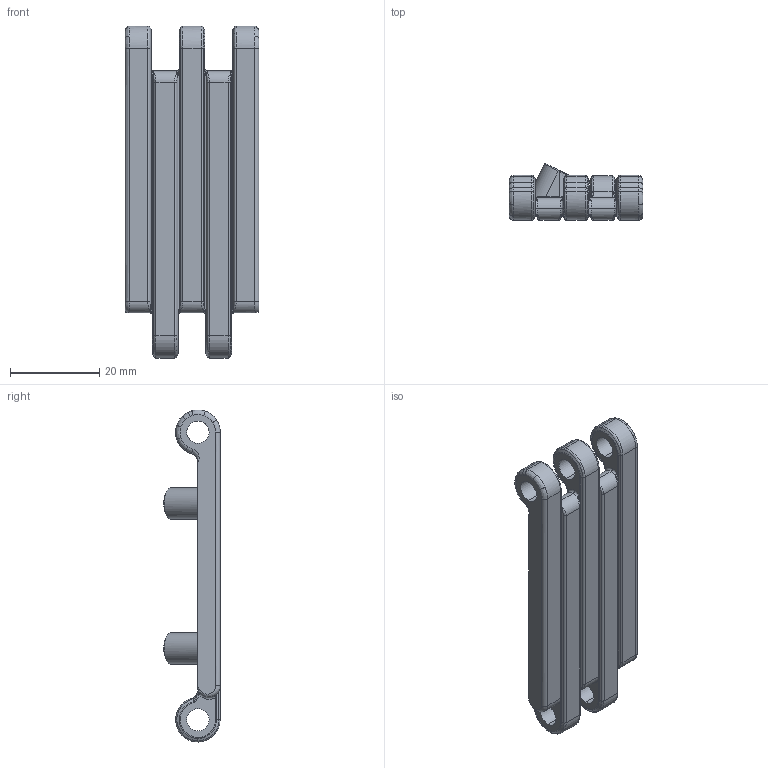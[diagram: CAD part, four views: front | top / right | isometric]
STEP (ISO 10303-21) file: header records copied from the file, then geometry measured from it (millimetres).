
FILE_DESCRIPTION (( 'STEP AP214' ), '1' );
FILE_NAME ('IDD-008-1.1.0-001_Kettenglied.STEP', '2021-08-18T14:46:08', ( '' ), ( '' ), 'SwSTEP 2.0', 'SolidWorks 2018', '' );
FILE_SCHEMA (( 'AUTOMOTIVE_DESIGN' ));
Length unit declared in the file: millimetre
Products named in the file (1): IDD-008-1.1.0-001_Kettenglied
Bounding box: 30 x 12.65 x 74.49 mm (x, y, z)
Volume: 10157.2 mm3; surface area: 6485 mm2
Topology: 1 solids, 1 shells, 385 faces, 947 edges, 540 vertices
Faces by surface type: bspline 178, cylinder 127, plane 34, torus 32, sphere 8, cone 6
Entity records: 21330 total; most frequent: CARTESIAN_POINT 13967, ORIENTED_EDGE 1838, DIRECTION 1169, EDGE_CURVE 919, VERTEX_POINT 540, AXIS2_PLACEMENT_3D 485, EDGE_LOOP 399, ADVANCED_FACE 385
